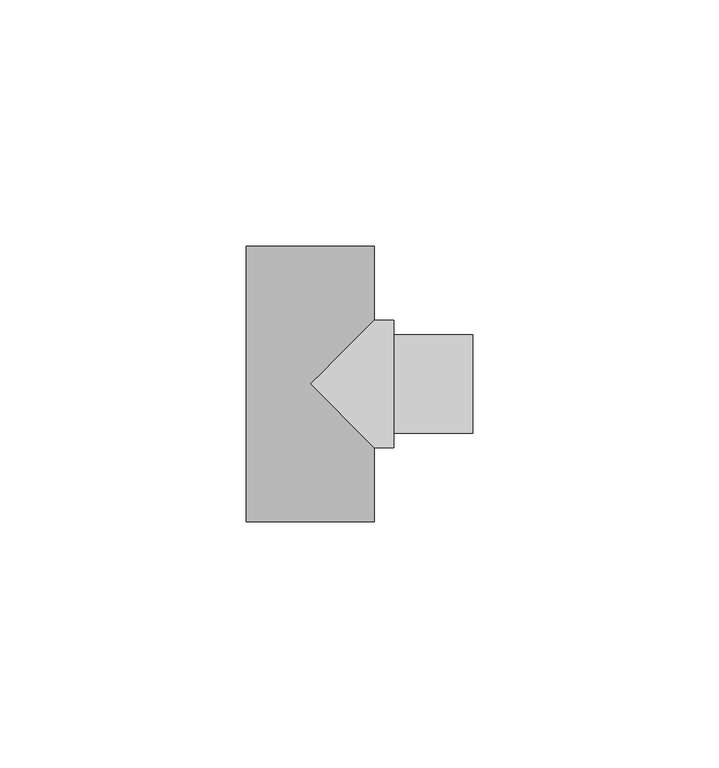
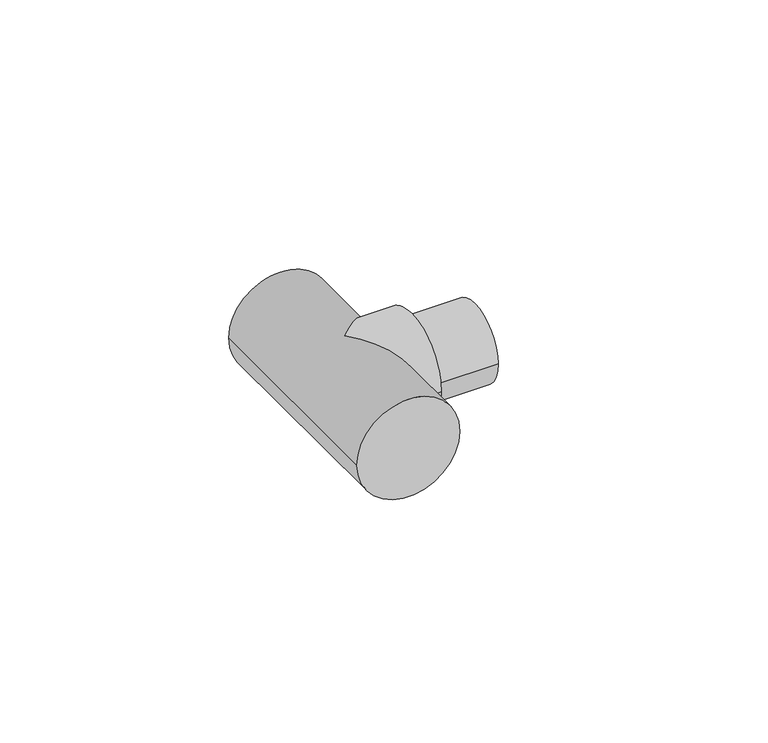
"""IFC4 building model written with IfcOpenShell, lengths in millimetres: pipe fitting geometry, 01051309 : Tes 90º reducidas H/M."""

from ifc_helpers import new_model, si_unit, point, frame, origin, origin_2d, place, context, project, spatial, circle_curve, ellipse_curve, trimmed, segment, composite_curve, outline, extrude, source, transform, mapped, element, save
from ifc_brep_helpers import plane_surface, cylinder_surface, advanced_brep


def pipe_fitting_2a1b2d5b(model_context):
    return source(origin(), model_context, "Body", "SolidModel", [
        advanced_brep(
        [(-13.0, 28.0, 0.0), (13.0, 28.0, 0.0), (-13.0, -28.0, 0.0), (13.0, -28.0, 0.0), (13.0, -13.0, 0.0), (0.0, 0.0, 13.0), (13.0, 13.0, 0.0), (0.0, 0.0, -13.0), (17.0, 13.0, 0.0), (17.0, -13.0, 0.0)],
        [
            (0, 1, circle_curve(frame((0.0, 28.0, 0.0), z_axis=(0.0, 1.0, 0.0), x_axis=(1.0, 0.0, 0.0)), 13.0)),
            (1, 0, circle_curve(frame((0.0, 28.0, 0.0), z_axis=(0.0, 1.0, 0.0), x_axis=(1.0, 0.0, 0.0)), 13.0)),
            (2, 3, circle_curve(frame((0.0, -28.0, 0.0), z_axis=(0.0, -1.0, 0.0), x_axis=(1.0, 0.0, 0.0)), 13.0)),
            (3, 2, circle_curve(frame((0.0, -28.0, 0.0), z_axis=(0.0, -1.0, 0.0), x_axis=(1.0, 0.0, 0.0)), 13.0)),
            (0, 2),
            (3, 4),
            (4, 5, ellipse_curve(frame((0.0, 0.0, 0.0), z_axis=(-0.7071067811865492, -0.7071067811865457, 0.0), x_axis=(-0.7071067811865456, 0.7071067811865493, 0.0)), 18.3847763, 13.0)),
            (5, 6, ellipse_curve(frame((0.0, 0.0, 0.0), z_axis=(-0.7071067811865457, 0.7071067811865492, 0.0), x_axis=(0.7071067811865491, 0.7071067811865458, 0.0)), 18.3847763, 13.0)),
            (6, 1),
            (6, 7, ellipse_curve(frame((0.0, 0.0, 0.0), z_axis=(-0.7071067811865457, 0.7071067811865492, 0.0), x_axis=(0.7071067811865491, 0.7071067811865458, 0.0)), 18.3847763, 13.0)),
            (7, 4, ellipse_curve(frame((0.0, 0.0, 0.0), z_axis=(-0.7071067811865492, -0.7071067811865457, 0.0), x_axis=(-0.7071067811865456, 0.7071067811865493, 0.0)), 18.3847763, 13.0)),
            (8, 9, circle_curve(frame((17.0, 0.0, 0.0), z_axis=(1.0, 0.0, 0.0), x_axis=(0.0, -1.0, 0.0)), 13.0)),
            (9, 8, circle_curve(frame((17.0, 0.0, 0.0), z_axis=(1.0, 0.0, 0.0), x_axis=(0.0, -1.0, 0.0)), 13.0)),
            (8, 6),
            (4, 9),
        ],
        [
            plane_surface(frame((0.0, 28.0, 0.0), z_axis=(0.0, 1.0, 0.0), x_axis=(0.0, 0.0, 1.0))),
            plane_surface(frame((0.0, -28.0, 0.0), z_axis=(0.0, -1.0, 0.0), x_axis=(0.0, 0.0, 1.0))),
            cylinder_surface(frame((0.0, 28.0, 0.0), z_axis=(0.0, 1.0, 0.0), x_axis=(1.0, 0.0, 0.0)), 13.0),
            plane_surface(frame((17.0, 0.0, 0.0), z_axis=(1.0, 0.0, 0.0), x_axis=(0.0, 0.0, 1.0))),
            cylinder_surface(frame((17.0, 0.0, 0.0), z_axis=(1.0, 0.0, 0.0), x_axis=(0.0, -1.0, 0.0)), 13.0),
        ],
        [
            (0, [[1, 2]]),
            (1, [[3, 4]]),
            (2, [[-1, 5, -4, 6, 7, 8, 9]]),
            (2, [[-2, -9, 10, 11, -6, -3, -5]]),
            (3, [[12, 13]]),
            (4, [[-12, 14, -8, -7, 15]]),
            (4, [[-13, -15, -11, -10, -14]]),
        ],
    ),
        extrude(outline(composite_curve([segment(trimmed(circle_curve(origin_2d(), 10.0), [point((10.0, 0.0))], [point((-10.0, 0.0))], False, "CARTESIAN"), True, "CONTINUOUS"), segment(trimmed(circle_curve(origin_2d(), 10.0), [point((-10.0, 0.0))], [point((10.0, 0.0))], False, "CARTESIAN"), True, "CONTINUOUS")], self_intersect=False)), frame((17.0, 0.0, 0.0), z_axis=(1.0, 0.0, 0.0), x_axis=(0.0, 1.0, 0.0)), (0.0, 0.0, 1.0), 16.0),
    ])


if __name__ == "__main__":
    model = new_model("IFC4")
    model_context = context("Model", 3, world=origin())
    ifc_project = project(units=[si_unit("LENGTHUNIT", "METRE", prefix="MILLI")], contexts=[model_context])
    site = spatial("IfcSite", under=ifc_project)
    building = spatial("IfcBuilding", under=site)
    placement = place(None, origin())
    pipe_fitting_shape = pipe_fitting_2a1b2d5b(model_context)
    element("IfcPipeFitting", 1, ObjectType="01051309 : Tes 90º reducidas H/M", at=placement, inside=building, context=model_context, shape_type="MappedRepresentation", body=[
        mapped(pipe_fitting_shape, transform((0.0, 0.0, 0.0), x_axis=(1.0, 0.0, 0.0), y_axis=(0.0, 1.0, 0.0), z_axis=(0.0, 0.0, 1.0))),
    ])
    save(model, "model.ifc")
